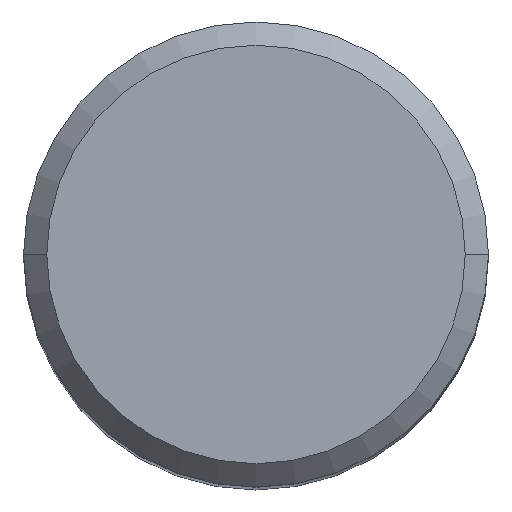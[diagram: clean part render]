
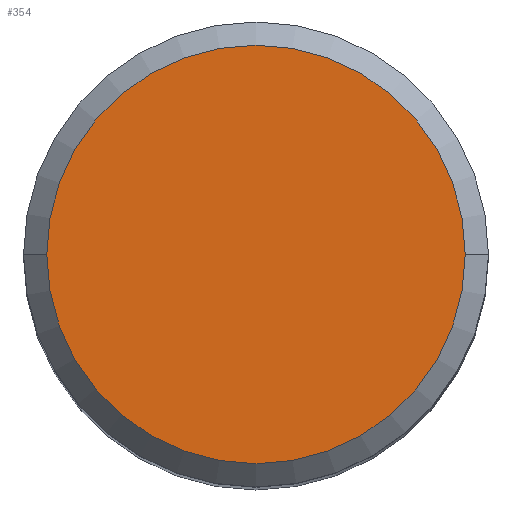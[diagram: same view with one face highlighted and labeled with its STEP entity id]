
A CAD part, top view. The second image highlights one B-rep face of the part: STEP entity #354.
In plain terms, the highlighted planar face has unit normal (0, 0, 1).
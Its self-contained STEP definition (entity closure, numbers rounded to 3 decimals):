
#11 = DIRECTION ( 'NONE',  ( 1., 0., 0. ) ) ;
#63 = EDGE_CURVE ( 'NONE', #73, #539, #368, .T. ) ;
#73 = VERTEX_POINT ( 'NONE', #133 ) ;
#82 = FACE_OUTER_BOUND ( 'NONE', #250, .T. ) ;
#114 = CARTESIAN_POINT ( 'NONE',  ( 4.5, 0., 19. ) ) ;
#121 = AXIS2_PLACEMENT_3D ( 'NONE', #328, #291, #11 ) ;
#133 = CARTESIAN_POINT ( 'NONE',  ( -4.5, 0., 19. ) ) ;
#134 = CARTESIAN_POINT ( 'NONE',  ( 0., 0., 19. ) ) ;
#136 = AXIS2_PLACEMENT_3D ( 'NONE', #134, #185, #235 ) ;
#139 = DIRECTION ( 'NONE',  ( 1., 0., 0. ) ) ;
#185 = DIRECTION ( 'NONE',  ( 0., 0., 1. ) ) ;
#206 = AXIS2_PLACEMENT_3D ( 'NONE', #221, #343, #139 ) ;
#221 = CARTESIAN_POINT ( 'NONE',  ( 0., 0., 19. ) ) ;
#230 = ORIENTED_EDGE ( 'NONE', *, *, #450, .T. ) ;
#235 = DIRECTION ( 'NONE',  ( 1., 0., 0. ) ) ;
#250 = EDGE_LOOP ( 'NONE', ( #498, #230 ) ) ;
#282 = CIRCLE ( 'NONE', #136, 4.5 ) ;
#291 = DIRECTION ( 'NONE',  ( 0., 0., 1. ) ) ;
#328 = CARTESIAN_POINT ( 'NONE',  ( 0., 0., 19. ) ) ;
#343 = DIRECTION ( 'NONE',  ( 0., 0., 1. ) ) ;
#354 = ADVANCED_FACE ( 'NONE', ( #82 ), #370, .T. ) ;
#368 = CIRCLE ( 'NONE', #206, 4.5 ) ;
#370 = PLANE ( 'NONE',  #121 ) ;
#450 = EDGE_CURVE ( 'NONE', #539, #73, #282, .T. ) ;
#498 = ORIENTED_EDGE ( 'NONE', *, *, #63, .T. ) ;
#539 = VERTEX_POINT ( 'NONE', #114 ) ;
